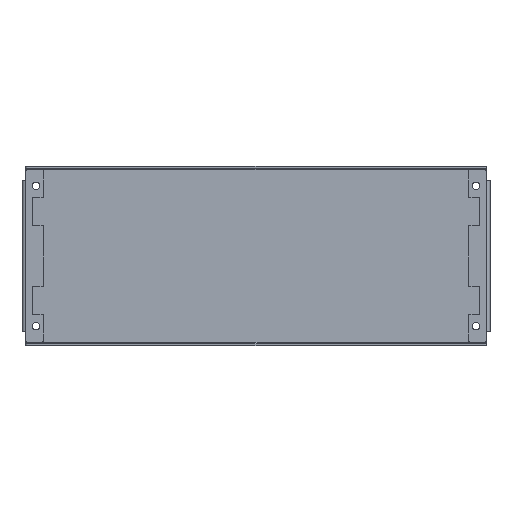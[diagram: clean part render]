
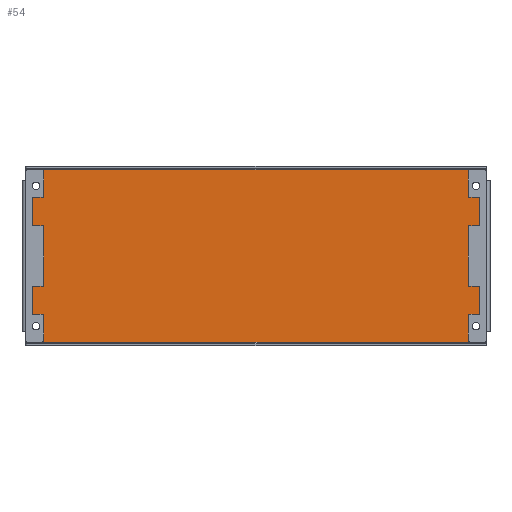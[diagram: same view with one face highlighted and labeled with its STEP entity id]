
A CAD part, top view. The second image highlights one B-rep face of the part: STEP entity #54.
In plain terms, the highlighted planar face has unit normal (0, 0, 1).
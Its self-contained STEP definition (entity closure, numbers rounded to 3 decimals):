
#54=ADVANCED_FACE('',(#186,#188,#190,#192,#194),#196,.T.);
#186=FACE_BOUND('',#187,.T.);
#187=EDGE_LOOP('',(#1129,#1130,#1131,#1132,#1133,#1134,#1135,#1136));
#188=FACE_BOUND('',#189,.T.);
#189=EDGE_LOOP('',(#1137));
#190=FACE_BOUND('',#191,.T.);
#191=EDGE_LOOP('',(#1138));
#192=FACE_BOUND('',#193,.T.);
#193=EDGE_LOOP('',(#1139));
#194=FACE_BOUND('',#195,.T.);
#195=EDGE_LOOP('',(#1140));
#196=PLANE('',#197);
#197=AXIS2_PLACEMENT_3D('',#198,#199,#200);
#198=CARTESIAN_POINT('',(0.,0.,2.));
#199=DIRECTION('',(0.,0.,1.));
#200=DIRECTION('',(1.,0.,0.));
#1129=ORIENTED_EDGE('',*,*,#1689,.T.);
#1130=ORIENTED_EDGE('',*,*,#1690,.T.);
#1131=ORIENTED_EDGE('',*,*,#1691,.T.);
#1132=ORIENTED_EDGE('',*,*,#1692,.T.);
#1133=ORIENTED_EDGE('',*,*,#1693,.T.);
#1134=ORIENTED_EDGE('',*,*,#1694,.T.);
#1135=ORIENTED_EDGE('',*,*,#1695,.T.);
#1136=ORIENTED_EDGE('',*,*,#1696,.T.);
#1137=ORIENTED_EDGE('',*,*,#1697,.T.);
#1138=ORIENTED_EDGE('',*,*,#1698,.T.);
#1139=ORIENTED_EDGE('',*,*,#1699,.T.);
#1140=ORIENTED_EDGE('',*,*,#1700,.T.);
#1689=EDGE_CURVE('',#1981,#1982,#1983,.F.);
#1690=EDGE_CURVE('',#1982,#1984,#1985,.T.);
#1691=EDGE_CURVE('',#1984,#1986,#1987,.F.);
#1692=EDGE_CURVE('',#1986,#1988,#1989,.T.);
#1693=EDGE_CURVE('',#1988,#1990,#1991,.F.);
#1694=EDGE_CURVE('',#1990,#1992,#1993,.T.);
#1695=EDGE_CURVE('',#1992,#1994,#1995,.F.);
#1696=EDGE_CURVE('',#1994,#1981,#1996,.T.);
#1697=EDGE_CURVE('',#1997,#1997,#1998,.T.);
#1698=EDGE_CURVE('',#1999,#1999,#2000,.T.);
#1699=EDGE_CURVE('',#2001,#2001,#2002,.T.);
#1700=EDGE_CURVE('',#2003,#2003,#2004,.T.);
#1981=VERTEX_POINT('',#2473);
#1982=VERTEX_POINT('',#2474);
#1983=LINE('',#2475,#2476);
#1984=VERTEX_POINT('',#2478);
#1985=LINE('',#2479,#2480);
#1986=VERTEX_POINT('',#2482);
#1987=LINE('',#2483,#2484);
#1988=VERTEX_POINT('',#2486);
#1989=LINE('',#2487,#2488);
#1990=VERTEX_POINT('',#2490);
#1991=LINE('',#2491,#2492);
#1992=VERTEX_POINT('',#2494);
#1993=LINE('',#2495,#2496);
#1994=VERTEX_POINT('',#2498);
#1995=LINE('',#2499,#2500);
#1996=LINE('',#2502,#2503);
#1997=VERTEX_POINT('',#2505);
#1998=CIRCLE('',#2506,8.5);
#1999=VERTEX_POINT('',#2510);
#2000=CIRCLE('',#2511,8.5);
#2001=VERTEX_POINT('',#2515);
#2002=CIRCLE('',#2516,8.5);
#2003=VERTEX_POINT('',#2520);
#2004=CIRCLE('',#2521,8.5);
#2473=CARTESIAN_POINT('',(4.,15.,2.));
#2474=CARTESIAN_POINT('',(4.,4.,2.));
#2475=CARTESIAN_POINT('',(4.,4.,2.));
#2476=VECTOR('',#2477,1.);
#2477=DIRECTION('',(0.,1.,0.));
#2478=CARTESIAN_POINT('',(496.,4.,2.));
#2479=CARTESIAN_POINT('',(4.,4.,2.));
#2480=VECTOR('',#2481,1.);
#2481=DIRECTION('',(1.,0.,0.));
#2482=CARTESIAN_POINT('',(496.,15.,2.));
#2483=CARTESIAN_POINT('',(496.,15.,2.));
#2484=VECTOR('',#2485,1.);
#2485=DIRECTION('',(0.,-1.,0.));
#2486=CARTESIAN_POINT('',(496.,177.,2.));
#2487=CARTESIAN_POINT('',(496.,15.,2.));
#2488=VECTOR('',#2489,1.);
#2489=DIRECTION('',(0.,1.,0.));
#2490=CARTESIAN_POINT('',(496.,188.,2.));
#2491=CARTESIAN_POINT('',(496.,188.,2.));
#2492=VECTOR('',#2493,1.);
#2493=DIRECTION('',(0.,-1.,0.));
#2494=CARTESIAN_POINT('',(4.,188.,2.));
#2495=CARTESIAN_POINT('',(496.,188.,2.));
#2496=VECTOR('',#2497,1.);
#2497=DIRECTION('',(-1.,0.,0.));
#2498=CARTESIAN_POINT('',(4.,177.,2.));
#2499=CARTESIAN_POINT('',(4.,177.,2.));
#2500=VECTOR('',#2501,1.);
#2501=DIRECTION('',(0.,1.,0.));
#2502=CARTESIAN_POINT('',(4.,177.,2.));
#2503=VECTOR('',#2504,1.);
#2504=DIRECTION('',(0.,-1.,0.));
#2505=CARTESIAN_POINT('',(23.5,21.,2.));
#2506=AXIS2_PLACEMENT_3D('',#2507,#2508,#2509);
#2507=CARTESIAN_POINT('',(15.,21.,2.));
#2508=DIRECTION('',(0.,0.,-1.));
#2509=DIRECTION('',(1.,0.,0.));
#2510=CARTESIAN_POINT('',(493.5,21.,2.));
#2511=AXIS2_PLACEMENT_3D('',#2512,#2513,#2514);
#2512=CARTESIAN_POINT('',(485.,21.,2.));
#2513=DIRECTION('',(0.,0.,-1.));
#2514=DIRECTION('',(1.,0.,0.));
#2515=CARTESIAN_POINT('',(23.5,171.,2.));
#2516=AXIS2_PLACEMENT_3D('',#2517,#2518,#2519);
#2517=CARTESIAN_POINT('',(15.,171.,2.));
#2518=DIRECTION('',(0.,0.,-1.));
#2519=DIRECTION('',(1.,0.,0.));
#2520=CARTESIAN_POINT('',(493.5,171.,2.));
#2521=AXIS2_PLACEMENT_3D('',#2522,#2523,#2524);
#2522=CARTESIAN_POINT('',(485.,171.,2.));
#2523=DIRECTION('',(0.,0.,-1.));
#2524=DIRECTION('',(1.,0.,0.));
